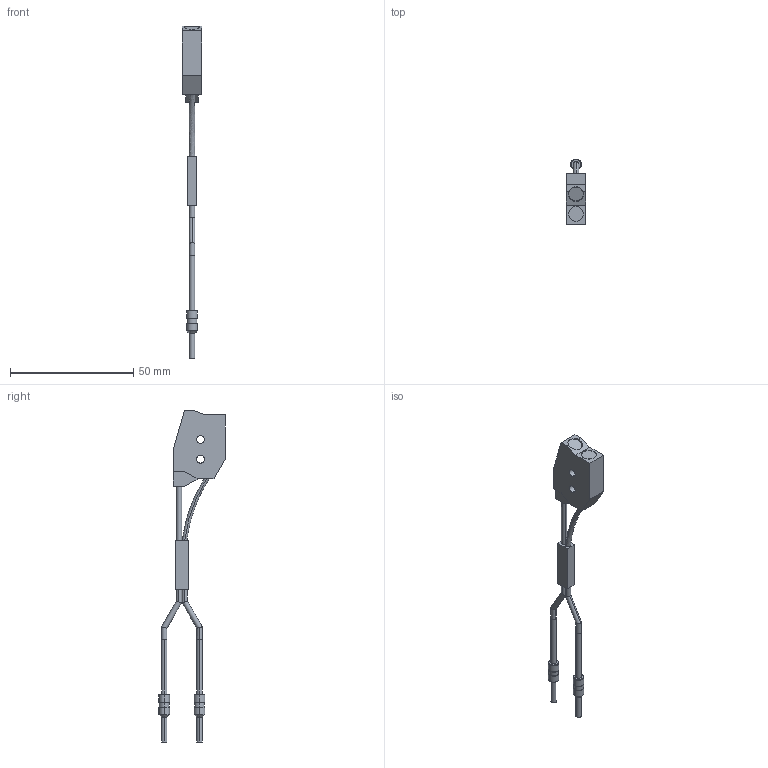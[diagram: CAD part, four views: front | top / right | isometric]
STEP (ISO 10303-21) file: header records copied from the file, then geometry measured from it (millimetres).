
FILE_DESCRIPTION (( 'STEP AP203' ), '1' );
FILE_NAME ('FD-L51.STEP', '2005-09-05T01:36:09', ( '川島良英' ), ( ' ' ), 'SwSTEP 2.0', 'SolidWorks 2004251', '' );
FILE_SCHEMA (( 'CONFIG_CONTROL_DESIGN' ));
Length unit declared in the file: millimetre
Products named in the file (1): FD-L51
Bounding box: 8 x 26.91 x 134.9 mm (x, y, z)
Volume: 5269.4 mm3; surface area: 3710.5 mm2
Topology: 3 solids, 3 shells, 90 faces, 203 edges, 130 vertices
Faces by surface type: cylinder 42, plane 38, cone 8, bspline 2
Entity records: 2678 total; most frequent: CARTESIAN_POINT 568, DIRECTION 435, ORIENTED_EDGE 406, EDGE_CURVE 203, AXIS2_PLACEMENT_3D 163, VERTEX_POINT 130, VECTOR 109, LINE 109
